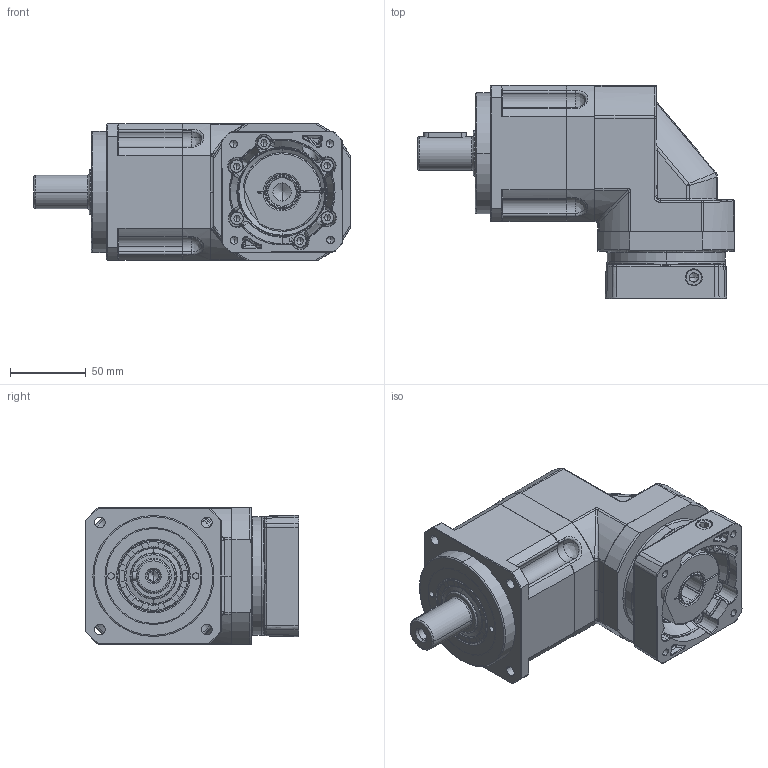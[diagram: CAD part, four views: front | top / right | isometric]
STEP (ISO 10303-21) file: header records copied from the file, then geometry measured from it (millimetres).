
FILE_DESCRIPTION (( 'STEP AP214' ), '1' );
FILE_NAME ('PAR090-L1-S2-P1 19-70-90-M6-45.STEP', '2025-02-15T05:56:05', ( '微软用户' ), ( '微软中国' ), 'SwSTEP 2.0', 'SolidWorks 2021', '' );
FILE_SCHEMA (( 'AUTOMOTIVE_DESIGN' ));
Length unit declared in the file: millimetre
Products named in the file (4): PAR090D.STEP; 6-PAR090F_________step_stp_stp.stp.STEP; PAR090D-L1-S2-19-70-90-M6-45.STEP; PAR090-L1-S2-P1 19-70-90-M6-45
Assembly tree (4 placements, depth 2):
  PAR090-L1-S2-P1 19-70-90-M6-45
    PAR090D-L1-S2-19-70-90-M6-45.STEP
    6-PAR090F_________step_stp_stp.stp.STEP
    PAR090D.STEP  x2
Bounding box: 209 x 141 x 90 mm (x, y, z)
Volume: 237570.7 mm3; surface area: 212168 mm2
Topology: 2 solids, 34 shells, 1431 faces, 3562 edges, 2242 vertices
Faces by surface type: plane 409, cylinder 400, bspline 368, cone 248, torus 6
Entity records: 80870 total; most frequent: CARTESIAN_POINT 50442, ORIENTED_EDGE 6844, DIRECTION 5442, EDGE_CURVE 3455, VERTEX_POINT 2196, AXIS2_PLACEMENT_3D 2160, EDGE_LOOP 1534, ADVANCED_FACE 1402
